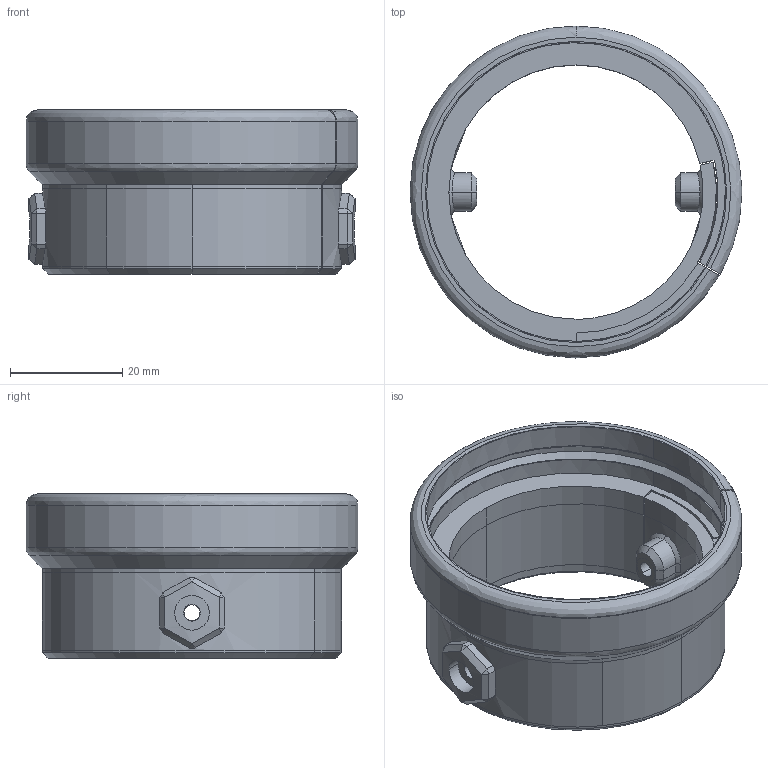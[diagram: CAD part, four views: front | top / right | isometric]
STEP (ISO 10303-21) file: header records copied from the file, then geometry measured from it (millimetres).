
FILE_DESCRIPTION(/* description */ (''),/* implementation_level */ '2;1');
FILE_NAME(/* name */ '002',/* time_stamp */ '2026-09-28T19:47:36+09:00',/* author */ (''),/* organization */ (''),/* preprocessor_version */ 'ST-DEVELOPER v19.2',/* originating_system */ 'Rhino 8.8',/* authorisation */ '');
FILE_SCHEMA (('CONFIG_CONTROL_DESIGN'));
Length unit declared in the file: millimetre
Products named in the file (1): Document
Bounding box: 59.27 x 59.27 x 29.33 mm (x, y, z)
Volume: 17890.2 mm3; surface area: 12914 mm2
Topology: 1 solids, 1 shells, 190 faces, 459 edges, 269 vertices
Faces by surface type: bspline 190
Entity records: 13175 total; most frequent: CARTESIAN_POINT 6554, B_SPLINE_CURVE_WITH_KNOTS 1084, ORIENTED_EDGE 894, PCURVE 894, DEFINITIONAL_REPRESENTATION 894, SURFACE_CURVE 447, EDGE_CURVE 447, DIRECTION 368
